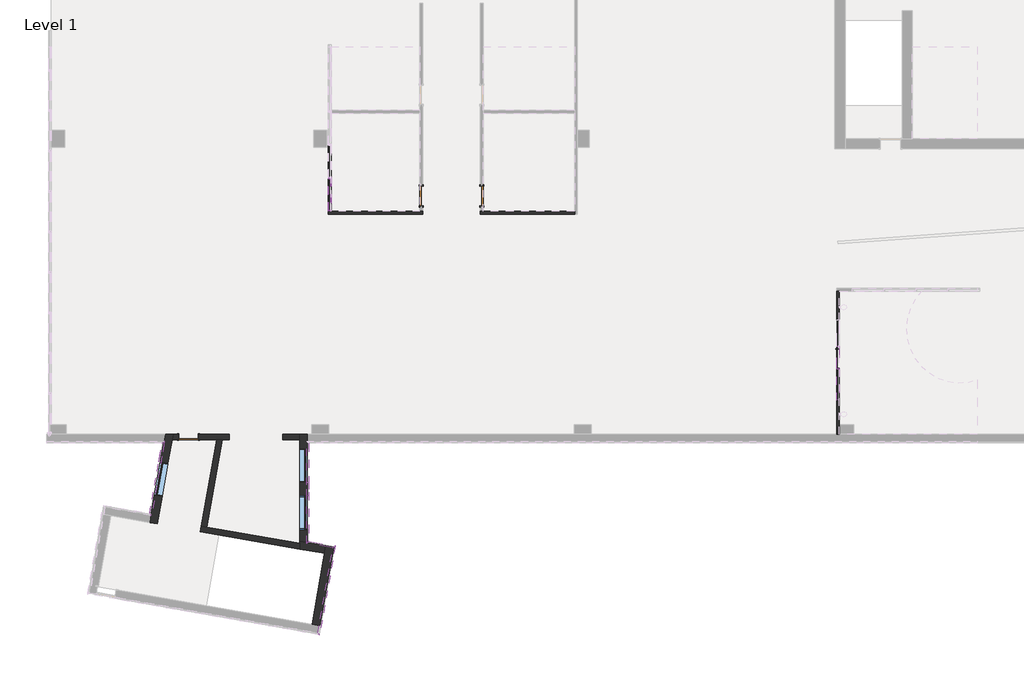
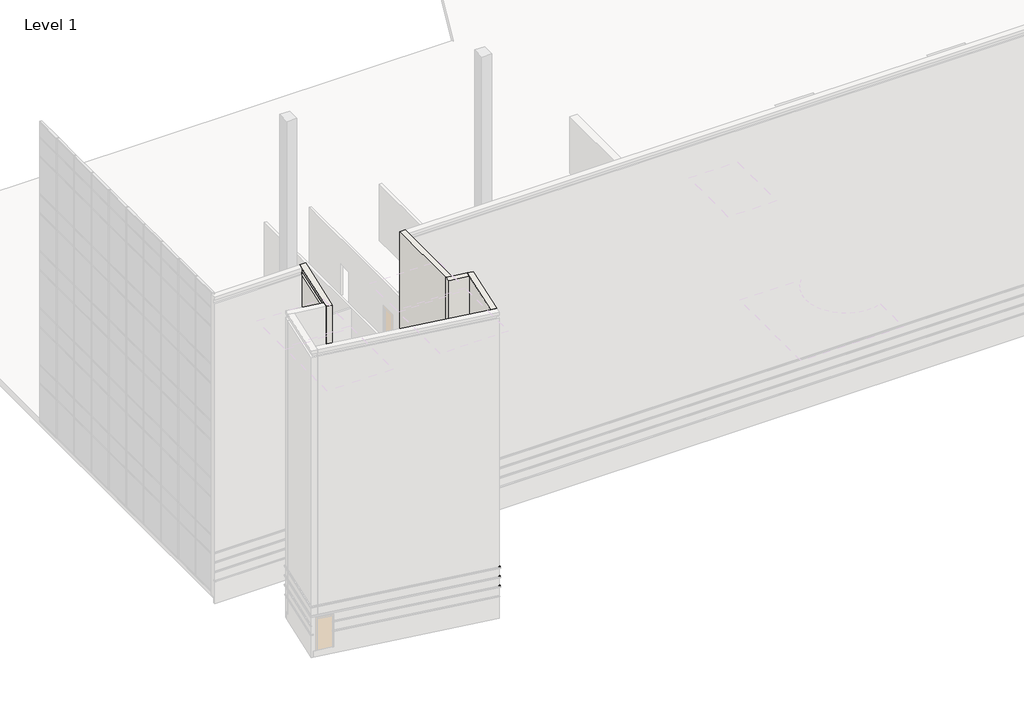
# One storey, part 5 of 23: 13 members, 12 proxies, 10 walls, 4 doors, 4 plates, 3 windows.
"""IFC4 building model written with IfcOpenShell, lengths in millimetres."""

from ifc_helpers import new_model, si_unit, frame, origin, origin_with_axes, place, context, project, spatial, polyline, outline, extrude, faceted_brep, transform, mapped, element, save
from components import curtain_wall_sgl_glass_curtain_wall_sgl_glass_ea362d66, door_ba235de4, door_82111de5, door_92889684, member_9597caa3, member_b2bde9e6, member_131a91bd, member_8e4b14e5, member_5adcf121, member_e7ed5742, member_194437a1, member_a139046c, member_8e09d03a, member_866a01fa, member_d7472725, system_panel_glazed_f771dc8d, system_panel_glazed_1974f2ce, system_panel_glazed_aacaee84, system_panel_solid_dc1d4dd7, window_7a027cf8

model = new_model("IFC4")

# Units and contexts
model_context = context("Model", 3, world=origin())
ifc_project = project(units=[si_unit("LENGTHUNIT", "METRE", prefix="MILLI")], contexts=[model_context])

# Site, building, storey
site = spatial("IfcSite", under=ifc_project)
building = spatial("IfcBuilding", under=site)
storey = spatial("IfcBuildingStorey", under=building, Name="Level 1", Elevation=0.0)

# Proxies
placement = place(None, origin())
element("IfcBuildingElementProxy", 1, Name="Reveals", at=placement, inside=storey, context=model_context, shape_type="SweptSolid", body=[
    extrude(outline(polyline([(-64063.4106191, -30479.1249304), (-63972.7344453, -30495.1135863), (-64135.1020032, -31415.9457657), (-64209.7895211, -31309.2809359), (-64063.4106191, -30479.1249304)])), frame((0.0, 0.0, 1625.6), z_axis=(0.0, 0.0, 1.0), x_axis=(1.0, 0.0, 0.0)), (0.0, 0.0, 1.0), 67.7333333),
    extrude(outline(polyline([(-63652.5265095, -28148.8853492), (-63542.7957974, -28056.8103492), (-63708.0946225, -28994.2665708), (-63798.7707964, -28978.2779148), (-63652.5265095, -28148.8853492)])), frame((0.0, 0.0, 1625.6), z_axis=(0.0, 0.0, 1.0), x_axis=(1.0, 0.0, 0.0)), (0.0, 0.0, 1.0), 67.7333333),
])
element("IfcBuildingElementProxy", 2, Name="Reveals", at=placement, inside=storey, context=model_context, shape_type="SweptSolid", body=[
    extrude(outline(polyline([(-64063.4106191, -30479.1249304), (-63972.7344453, -30495.1135863), (-64135.1020032, -31415.9457657), (-64209.7895211, -31309.2809359), (-64063.4106191, -30479.1249304)])), frame((0.0, 0.0, 2235.2), z_axis=(0.0, 0.0, 1.0), x_axis=(1.0, 0.0, 0.0)), (0.0, 0.0, 1.0), 67.7333333),
    extrude(outline(polyline([(-63652.5265095, -28148.8853492), (-63542.7957974, -28056.8103492), (-63708.0946225, -28994.2665708), (-63798.7707964, -28978.2779148), (-63652.5265095, -28148.8853492)])), frame((0.0, 0.0, 2235.2), z_axis=(0.0, 0.0, 1.0), x_axis=(1.0, 0.0, 0.0)), (0.0, 0.0, 1.0), 67.7333333),
])
element("IfcBuildingElementProxy", 3, Name="Reveals", at=placement, inside=storey, context=model_context, shape_type="SweptSolid", body=[
    extrude(outline(polyline([(-63652.5265095, -28148.8853492), (-63542.7957974, -28056.8103492), (-64135.1020032, -31415.9457657), (-64209.7895211, -31309.2809359), (-63652.5265095, -28148.8853492)])), frame((0.0, 0.0, 2844.8), z_axis=(0.0, 0.0, 1.0), x_axis=(1.0, 0.0, 0.0)), (0.0, 0.0, 1.0), 67.7333333),
])
element("IfcBuildingElementProxy", 4, Name="Reveals", at=placement, inside=storey, context=model_context, shape_type="SweptSolid", body=[
    extrude(outline(polyline([(-56525.6460513, -36823.1362989), (-56600.3335692, -36716.4714691), (-55921.0913575, -32864.2974624), (-55814.4265276, -32789.6099445), (-56525.6460513, -36823.1362989)])), frame((0.0, 0.0, 1625.6), z_axis=(0.0, 0.0, 1.0), x_axis=(1.0, 0.0, 0.0)), (0.0, 0.0, 1.0), 67.7333333),
])
element("IfcBuildingElementProxy", 5, Name="Reveals", at=placement, inside=storey, context=model_context, shape_type="SweptSolid", body=[
    extrude(outline(polyline([(-56525.6460513, -36823.1362989), (-56600.3335692, -36716.4714691), (-55921.0913575, -32864.2974624), (-55814.4265276, -32789.6099445), (-56525.6460513, -36823.1362989)])), frame((0.0, 0.0, 2235.2), z_axis=(0.0, 0.0, 1.0), x_axis=(1.0, 0.0, 0.0)), (0.0, 0.0, 1.0), 67.7333333),
])
element("IfcBuildingElementProxy", 6, Name="Reveals", at=placement, inside=storey, context=model_context, shape_type="SweptSolid", body=[
    extrude(outline(polyline([(-56525.6460513, -36823.1362989), (-56600.3335692, -36716.4714691), (-55921.0913575, -32864.2974624), (-55814.4265276, -32789.6099445), (-56525.6460513, -36823.1362989)])), frame((0.0, 0.0, 2844.8), z_axis=(0.0, 0.0, 1.0), x_axis=(1.0, 0.0, 0.0)), (0.0, 0.0, 1.0), 67.7333333),
])
element("IfcBuildingElementProxy", 7, Name="Reveals", at=placement, inside=storey, context=model_context, shape_type="SweptSolid", body=[
    extrude(outline(polyline([(-55814.4265276, -32789.6099445), (-55921.0913575, -32864.2974624), (-57101.4875003, -32656.1617745), (-57009.4125003, -32578.9016759), (-55814.4265276, -32789.6099445)])), frame((0.0, 0.0, 1625.6), z_axis=(0.0, 0.0, 1.0), x_axis=(1.0, 0.0, 0.0)), (0.0, 0.0, 1.0), 67.7333333),
])
element("IfcBuildingElementProxy", 8, Name="Reveals", at=placement, inside=storey, context=model_context, shape_type="SweptSolid", body=[
    extrude(outline(polyline([(-55814.4265276, -32789.6099445), (-55921.0913575, -32864.2974624), (-57101.4875003, -32656.1617745), (-57009.4125003, -32578.9016759), (-55814.4265276, -32789.6099445)])), frame((0.0, 0.0, 2235.2), z_axis=(0.0, 0.0, 1.0), x_axis=(1.0, 0.0, 0.0)), (0.0, 0.0, 1.0), 67.7333333),
])
element("IfcBuildingElementProxy", 9, Name="Reveals", at=placement, inside=storey, context=model_context, shape_type="SweptSolid", body=[
    extrude(outline(polyline([(-55814.4265276, -32789.6099445), (-55921.0913575, -32864.2974624), (-57101.4875003, -32656.1617745), (-57009.4125003, -32578.9016759), (-55814.4265276, -32789.6099445)])), frame((0.0, 0.0, 2844.8), z_axis=(0.0, 0.0, 1.0), x_axis=(1.0, 0.0, 0.0)), (0.0, 0.0, 1.0), 67.7333333),
])
element("IfcBuildingElementProxy", 10, Name="Reveals", at=placement, inside=storey, context=model_context, shape_type="SweptSolid", body=[
    extrude(outline(polyline([(-57009.4125003, -28391.7728492), (-57101.4875003, -28391.7728492), (-57101.4875003, -28056.8103492), (-57009.4125003, -28148.8853492), (-57009.4125003, -28391.7728492)])), frame((0.0, 0.0, 1625.6), z_axis=(0.0, 0.0, 1.0), x_axis=(1.0, 0.0, 0.0)), (0.0, 0.0, 1.0), 67.7333333),
    extrude(outline(polyline([(-57009.4125003, -30525.3728492), (-57101.4875003, -30525.3728492), (-57101.4875003, -29915.7728492), (-57009.4125003, -29915.7728492), (-57009.4125003, -30525.3728492)])), frame((0.0, 0.0, 1625.6), z_axis=(0.0, 0.0, 1.0), x_axis=(1.0, 0.0, 0.0)), (0.0, 0.0, 1.0), 67.7333333),
    extrude(outline(polyline([(-57009.4125003, -32578.9016759), (-57101.4875003, -32656.1617745), (-57101.4875003, -32049.3728492), (-57009.4125003, -32049.3728492), (-57009.4125003, -32578.9016759)])), frame((0.0, 0.0, 1625.6), z_axis=(0.0, 0.0, 1.0), x_axis=(1.0, 0.0, 0.0)), (0.0, 0.0, 1.0), 67.7333333),
])
element("IfcBuildingElementProxy", 11, Name="Reveals", at=placement, inside=storey, context=model_context, shape_type="SweptSolid", body=[
    extrude(outline(polyline([(-57009.4125003, -28391.7728492), (-57101.4875003, -28391.7728492), (-57101.4875003, -28056.8103492), (-57009.4125003, -28148.8853492), (-57009.4125003, -28391.7728492)])), frame((0.0, 0.0, 2235.2), z_axis=(0.0, 0.0, 1.0), x_axis=(1.0, 0.0, 0.0)), (0.0, 0.0, 1.0), 67.7333333),
    extrude(outline(polyline([(-57009.4125003, -30525.3728492), (-57101.4875003, -30525.3728492), (-57101.4875003, -29915.7728492), (-57009.4125003, -29915.7728492), (-57009.4125003, -30525.3728492)])), frame((0.0, 0.0, 2235.2), z_axis=(0.0, 0.0, 1.0), x_axis=(1.0, 0.0, 0.0)), (0.0, 0.0, 1.0), 67.7333333),
    extrude(outline(polyline([(-57009.4125003, -32578.9016759), (-57101.4875003, -32656.1617745), (-57101.4875003, -32049.3728492), (-57009.4125003, -32049.3728492), (-57009.4125003, -32578.9016759)])), frame((0.0, 0.0, 2235.2), z_axis=(0.0, 0.0, 1.0), x_axis=(1.0, 0.0, 0.0)), (0.0, 0.0, 1.0), 67.7333333),
])
element("IfcBuildingElementProxy", 12, Name="Reveals", at=placement, inside=storey, context=model_context, shape_type="SweptSolid", body=[
    extrude(outline(polyline([(-57009.4125003, -32578.9016759), (-57101.4875003, -32656.1617745), (-57101.4875003, -28056.8103492), (-57009.4125003, -28148.8853492), (-57009.4125003, -32578.9016759)])), frame((0.0, 0.0, 2844.8), z_axis=(0.0, 0.0, 1.0), x_axis=(1.0, 0.0, 0.0)), (0.0, 0.0, 1.0), 67.7333333),
])

# Doors
curtain_wall_sgl_glass_curtain_wall_sgl_glass_shape = curtain_wall_sgl_glass_curtain_wall_sgl_glass_ea362d66(model_context)
element("IfcDoor", 13, ObjectType="Curtain Wall Sgl Glass : Curtain Wall Sgl Glass", at=placement, inside=storey, context=model_context, shape_type="MappedRepresentation", body=[
    mapped(curtain_wall_sgl_glass_curtain_wall_sgl_glass_shape, transform((-33067.7142212, -24273.7978492, -25.4), x_axis=(0.0, -1.0, 0.0), y_axis=(1.0, 0.0, 0.0), z_axis=(0.0, 0.0, 1.0))),
])
door_shape = door_ba235de4(model_context)
element("IfcDoor", 14, ObjectType="Single-Flush : 34\" x 80\"", at=placement, inside=storey, context=model_context, shape_type="MappedRepresentation", body=[
    mapped(door_shape, transform((-62457.7125003, -27856.7853492, 0.0), x_axis=(-1.0, 0.0, 0.0), y_axis=(0.0, -1.0, 0.0), z_axis=(0.0, 0.0, 1.0))),
])
door_2_shape = door_82111de5(model_context)
element("IfcDoor", 15, ObjectType="Single-Flush : 34\" x 80\"", at=placement, inside=storey, context=model_context, shape_type="MappedRepresentation", body=[
    mapped(door_2_shape, transform((-51923.5856498, -16957.0103492, 0.0), x_axis=(0.0, -1.0, 0.0), y_axis=(1.0, 0.0, 0.0), z_axis=(0.0, 0.0, 1.0))),
])
door_3_shape = door_92889684(model_context)
element("IfcDoor", 16, ObjectType="Single-Flush : 34\" x 80\"", at=placement, inside=storey, context=model_context, shape_type="MappedRepresentation", body=[
    mapped(door_3_shape, transform((-49194.8999355, -16957.0103492, 0.0), x_axis=(0.0, -1.0, 0.0), y_axis=(1.0, 0.0, 0.0), z_axis=(0.0, 0.0, 1.0))),
])

# Members
member_shape = member_9597caa3(model_context)
element("IfcMember", 17, ObjectType="Rectangular Mullion : 2.5\" x 5\" rectangular", at=placement, inside=storey, context=model_context, shape_type="MappedRepresentation", body=[
    mapped(member_shape, transform((-56063.7856498, -16145.6214603, 63.5), x_axis=(0.0, 1.0, 0.0), y_axis=(1.0, 0.0, 0.0), z_axis=(0.0, 0.0, -1.0))),
])
member_2_shape = member_b2bde9e6(model_context)
element("IfcMember", 18, ObjectType="Rectangular Mullion : 2.5\" x 5\" rectangular", at=placement, inside=storey, context=model_context, shape_type="MappedRepresentation", body=[
    mapped(member_2_shape, transform((-56063.7856498, -17655.5103492, 2438.4), x_axis=(0.0, -1.0, 0.0), y_axis=(1.0, 0.0, 0.0), z_axis=(0.0, 0.0, 1.0))),
])
member_3_shape = member_131a91bd(model_context)
element("IfcMember", 19, ObjectType="Rectangular Mullion : 2.5\" x 5\" rectangular", at=placement, inside=storey, context=model_context, shape_type="MappedRepresentation", body=[
    mapped(member_3_shape, transform((-56063.7856498, -16145.6214603, 3657.6), x_axis=(0.0, 0.0, 1.0), y_axis=(1.0, 0.0, 0.0), z_axis=(0.0, 1.0, 0.0))),
])
element("IfcMember", 20, ObjectType="Rectangular Mullion : 2.5\" x 5\" rectangular", at=placement, inside=storey, context=model_context, shape_type="MappedRepresentation", body=[
    mapped(member_3_shape, transform((-56063.7856498, -17655.5103492, 0.0), x_axis=(0.0, 0.0, -1.0), y_axis=(1.0, 0.0, 0.0), z_axis=(0.0, -1.0, 0.0))),
])
element("IfcMember", 21, ObjectType="Rectangular Mullion : 2.5\" x 5\" rectangular", at=placement, inside=storey, context=model_context, shape_type="MappedRepresentation", body=[
    mapped(member_3_shape, transform((-56063.7856498, -16145.6214603, 0.0), x_axis=(0.0, 0.0, -1.0), y_axis=(1.0, 0.0, 0.0), z_axis=(0.0, -1.0, 0.0))),
])
member_4_shape = member_8e4b14e5(model_context)
element("IfcMember", 22, ObjectType="Rectangular Mullion : 2.5\" x 5\" rectangular", at=placement, inside=storey, context=model_context, shape_type="MappedRepresentation", body=[
    mapped(member_4_shape, transform((-56063.7856498, -16145.6214603, 2438.4), x_axis=(0.0, 0.0, 1.0), y_axis=(1.0, 0.0, 0.0), z_axis=(0.0, 1.0, 0.0))),
])
member_5_shape = member_5adcf121(model_context)
element("IfcMember", 23, ObjectType="Rectangular Mullion : 2.5\" x 5\" rectangular", at=placement, inside=storey, context=model_context, shape_type="MappedRepresentation", body=[
    mapped(member_5_shape, transform((-33067.7142212, -24781.7978492, 38.1), x_axis=(0.0, 1.0, 0.0), y_axis=(1.0, 0.0, 0.0), z_axis=(0.0, 0.0, -1.0))),
])
member_6_shape = member_e7ed5742(model_context)
element("IfcMember", 24, ObjectType="Rectangular Mullion : 2.5\" x 5\" rectangular", at=placement, inside=storey, context=model_context, shape_type="MappedRepresentation", body=[
    mapped(member_6_shape, transform((-33067.7142212, -26204.1978492, 2349.5), x_axis=(0.0, -1.0, 0.0), y_axis=(1.0, 0.0, 0.0), z_axis=(0.0, 0.0, 1.0))),
])
member_7_shape = member_194437a1(model_context)
element("IfcMember", 25, ObjectType="Rectangular Mullion : 2.5\" x 5\" rectangular", at=placement, inside=storey, context=model_context, shape_type="MappedRepresentation", body=[
    mapped(member_7_shape, transform((-33067.7142212, -24781.7978492, 2413.0), x_axis=(0.0, 0.0, 1.0), y_axis=(1.0, 0.0, 0.0), z_axis=(0.0, 1.0, 0.0))),
])
member_8_shape = member_a139046c(model_context)
element("IfcMember", 26, ObjectType="Rectangular Mullion : 2.5\" x 5\" rectangular", at=placement, inside=storey, context=model_context, shape_type="MappedRepresentation", body=[
    mapped(member_8_shape, transform((-33067.7142212, -26204.1978492, -25.4), x_axis=(0.0, 0.0, -1.0), y_axis=(1.0, 0.0, 0.0), z_axis=(0.0, -1.0, 0.0))),
])
member_9_shape = member_8e09d03a(model_context)
element("IfcMember", 27, ObjectType="Rectangular Mullion : 2.5\" x 5\" rectangular", at=placement, inside=storey, context=model_context, shape_type="MappedRepresentation", body=[
    mapped(member_9_shape, transform((-33067.7142212, -23765.7978492, 2413.0), x_axis=(0.0, 0.0, 1.0), y_axis=(1.0, 0.0, 0.0), z_axis=(0.0, 1.0, 0.0))),
])
member_10_shape = member_866a01fa(model_context)
element("IfcMember", 28, ObjectType="Rectangular Mullion : 2.5\" x 5\" rectangular", at=placement, inside=storey, context=model_context, shape_type="MappedRepresentation", body=[
    mapped(member_10_shape, transform((-56063.7856498, -16145.6214603, 2470.15), x_axis=(0.0, 1.0, 0.0), y_axis=(1.0, 0.0, 0.0), z_axis=(0.0, 0.0, -1.0))),
])
member_11_shape = member_d7472725(model_context)
element("IfcMember", 29, ObjectType="Rectangular Mullion : 2.5\" x 5\" rectangular", at=placement, inside=storey, context=model_context, shape_type="MappedRepresentation", body=[
    mapped(member_11_shape, transform((-56063.7856498, -17655.5103492, 3594.1), x_axis=(0.0, -1.0, 0.0), y_axis=(1.0, 0.0, 0.0), z_axis=(0.0, 0.0, 1.0))),
])

# Plates
system_panel_glazed_shape = system_panel_glazed_f771dc8d(model_context)
element("IfcPlate", 30, ObjectType="System Panel : Glazed", at=placement, inside=storey, context=model_context, shape_type="MappedRepresentation", body=[
    mapped(system_panel_glazed_shape, transform((-56063.7856498, -16884.6909048, 63.5), x_axis=(0.0, 1.0, 0.0), y_axis=(-1.0, 0.0, 0.0), z_axis=(0.0, 0.0, 1.0))),
])
system_panel_glazed_2_shape = system_panel_glazed_1974f2ce(model_context)
element("IfcPlate", 31, ObjectType="System Panel : Glazed", at=placement, inside=storey, context=model_context, shape_type="MappedRepresentation", body=[
    mapped(system_panel_glazed_2_shape, transform((-33067.7142212, -23172.0728492, 38.1), x_axis=(0.0, 1.0, 0.0), y_axis=(-1.0, 0.0, 0.0), z_axis=(0.0, 0.0, 1.0))),
])
system_panel_glazed_3_shape = system_panel_glazed_aacaee84(model_context)
element("IfcPlate", 32, ObjectType="System Panel : Glazed", at=placement, inside=storey, context=model_context, shape_type="MappedRepresentation", body=[
    mapped(system_panel_glazed_3_shape, transform((-33067.7142212, -25477.1228492, 38.1), x_axis=(0.0, 1.0, 0.0), y_axis=(-1.0, 0.0, 0.0), z_axis=(0.0, 0.0, 1.0))),
])
system_panel_solid_shape = system_panel_solid_dc1d4dd7(model_context)
element("IfcPlate", 33, ObjectType="System Panel : Solid", at=placement, inside=storey, context=model_context, shape_type="MappedRepresentation", body=[
    mapped(system_panel_solid_shape, transform((-56063.7856498, -16884.6909048, 2470.15), x_axis=(0.0, 1.0, 0.0), y_axis=(-1.0, 0.0, 0.0), z_axis=(0.0, 0.0, 1.0))),
])

# Walls
element("IfcWall", 34, ObjectType="Core-shaft 10\" Concrete", at=placement, inside=storey, context=model_context, shape_type="Brep", body=[
    faceted_brep([(-62889.5125003, -27729.7853492, 2032.0), (-62889.5125003, -27729.7853492, 0.0), (-63153.0625788, -27729.7853492, 0.0), (-63153.0625788, -27729.7853492, 3657.6), (-57428.5125003, -27729.7853492, 3657.6), (-57428.5125003, -27729.7853492, 0.0), (-58182.8685961, -27729.7853492, 0.0), (-58182.8685961, -27729.7853492, 2438.4), (-60621.2685961, -27729.7853492, 2438.4), (-60621.2685961, -27729.7853492, 0.0), (-62025.9125003, -27729.7853492, 0.0), (-62025.9125003, -27729.7853492, 2032.0), (-63197.8496319, -27983.7853492, 0.0), (-62889.5125003, -27983.7853492, 0.0), (-62889.5125003, -27983.7853492, 2032.0), (-62025.9125003, -27983.7853492, 2032.0), (-62025.9125003, -27983.7853492, 0.0), (-61184.4744387, -27983.7853492, 0.0), (-60926.5560793, -27983.7853492, 0.0), (-60621.2685961, -27983.7853492, 0.0), (-60621.2685961, -27983.7853492, 2438.4), (-58182.8685961, -27983.7853492, 2438.4), (-58182.8685961, -27983.7853492, 0.0), (-57428.5125003, -27983.7853492, 0.0), (-57428.5125003, -27983.7853492, 3657.6), (-60926.5560793, -27983.7853492, 3657.6), (-61184.4744387, -27983.7853492, 3657.6), (-63197.8496319, -27983.7853492, 3657.6)], [[[0, 1, 2, 3, 4, 5, 6, 7, 8, 9, 10, 11]], [[12, 13, 14, 15, 16, 17, 18, 19, 20, 21, 22, 23, 24, 25, 26, 27]], [[5, 23, 22, 6]], [[10, 9, 19, 18, 17, 16]], [[2, 1, 13, 12]], [[4, 3, 27, 26, 25, 24]], [[3, 2, 12, 27]], [[5, 4, 24, 23]], [[14, 13, 1, 0]], [[15, 14, 0, 11]], [[16, 15, 11, 10]], [[7, 21, 20, 8]], [[21, 7, 6, 22]], [[8, 20, 19, 9]]]),
])
element("IfcWall", 35, ObjectType="Core-shaft 10\" Concrete", at=placement, inside=storey, context=model_context, shape_type="Brep", body=[
    faceted_brep([(-61917.1680405, -32139.0972525, 0.0), (-57428.5125003, -32930.5683313, 0.0), (-57428.5125003, -32930.5683313, 3657.6), (-61917.1680405, -32139.0972525, 3657.6), (-61873.0614034, -31888.9560832, 0.0), (-61873.0614034, -31888.9560832, 3657.6), (-61622.9202341, -31933.0627204, 3657.6), (-57428.5125003, -32672.6499719, 3657.6), (-57428.5125003, -32672.6499719, 0.0), (-61622.9202341, -31933.0627204, 0.0)], [[[0, 1, 2, 3]], [[4, 5, 6, 7, 8, 9]], [[1, 0, 4, 9, 8]], [[3, 2, 7, 6, 5]], [[0, 3, 5, 4]], [[2, 1, 8, 7]]]),
])
element("IfcWall", 36, ObjectType="Core-shaft 10\" Concrete", at=placement, inside=storey, context=model_context, shape_type="SweptSolid", body=[
    extrude(outline(polyline([(-60926.5560793, -27983.7853492), (-61622.9202341, -31933.0627204), (-61873.0614034, -31888.9560832), (-61184.4744387, -27983.7853492), (-60926.5560793, -27983.7853492)])), origin_with_axes(), (0.0, 0.0, 1.0), 3657.6),
])
element("IfcWall", 37, ObjectType="Exterior - Brick and CMU on MTL. Stud", at=placement, inside=storey, context=model_context, shape_type="Brep", body=[
    faceted_brep([(-64216.9034154, -31733.5918574, 19304.0), (-64155.7054564, -31386.5209851, 19304.0), (-63573.0663387, -28082.2103492, 19304.0), (-63510.9243025, -27729.7853492, 19304.0), (-63510.9243025, -27729.7853492, 0.0), (-63556.8310319, -27990.1353492, 0.0), (-63556.8310319, -27990.1353492, -406.4), (-63573.0663387, -28082.2103492, -406.4), (-64155.7054564, -31386.5209851, -406.4), (-64171.6941124, -31477.1971589, -406.4), (-64171.6941124, -31477.1971589, 0.0), (-64216.9034154, -31733.5918574, 0.0), (-63997.7485622, -30490.7029226, 914.4), (-63733.1087394, -28989.855907, 914.4), (-63733.1087394, -28989.855907, 1016.0), (-63573.0663387, -28082.2103492, 1016.0), (-63556.8310319, -27990.1353492, 1016.0), (-63556.8310319, -27990.1353492, 1085.85), (-63573.0663387, -28082.2103492, 1085.85), (-63733.1087394, -28989.855907, 1085.85), (-63733.1087394, -28989.855907, 1625.6), (-63573.0663387, -28082.2103492, 1625.6), (-63568.5876334, -28056.8103492, 1625.6), (-63568.5876334, -28056.8103492, 1693.3333333), (-63573.0663387, -28082.2103492, 1693.3333333), (-63733.1087394, -28989.855907, 1693.3333333), (-63733.1087394, -28989.855907, 2235.2), (-63573.0663387, -28082.2103492, 2235.2), (-63568.5876334, -28056.8103492, 2235.2), (-63568.5876334, -28056.8103492, 2302.9333333), (-63573.0663387, -28082.2103492, 2302.9333333), (-63733.1087394, -28989.855907, 2302.9333333), (-63733.1087394, -28989.855907, 2286.0), (-63997.7485622, -30490.7029226, 2286.0), (-63997.7485622, -30490.7029226, 2302.9333333), (-64155.7054564, -31386.5209851, 2302.9333333), (-64160.1161201, -31411.535102, 2302.9333333), (-64160.1161201, -31411.535102, 2235.2), (-64155.7054564, -31386.5209851, 2235.2), (-63997.7485622, -30490.7029226, 2235.2), (-63997.7485622, -30490.7029226, 1693.3333333), (-64155.7054564, -31386.5209851, 1693.3333333), (-64160.1161201, -31411.535102, 1693.3333333), (-64160.1161201, -31411.535102, 1625.6), (-64155.7054564, -31386.5209851, 1625.6), (-63997.7485622, -30490.7029226, 1625.6), (-63997.7485622, -30490.7029226, 1085.85), (-64155.7054564, -31386.5209851, 1085.85), (-64171.6941124, -31477.1971589, 1085.85), (-64171.6941124, -31477.1971589, 1016.0), (-64155.7054564, -31386.5209851, 1016.0), (-63997.7485622, -30490.7029226, 1016.0), (-64160.1161201, -31411.535102, 2912.5333333), (-64160.1161201, -31411.535102, 2844.8), (-64155.7054564, -31386.5209851, 2844.8), (-63573.0663387, -28082.2103492, 2844.8), (-63568.5876334, -28056.8103492, 2844.8), (-63568.5876334, -28056.8103492, 2912.5333333), (-63573.0663387, -28082.2103492, 2912.5333333), (-64155.7054564, -31386.5209851, 2912.5333333), (-64171.6941124, -31477.1971589, 19100.8), (-64171.6941124, -31477.1971589, 18897.6), (-64155.7054564, -31386.5209851, 18897.6), (-63573.0663387, -28082.2103492, 18897.6), (-63556.8310319, -27990.1353492, 18897.6), (-63556.8310319, -27990.1353492, 19100.8), (-63573.0663387, -28082.2103492, 19100.8), (-64155.7054564, -31386.5209851, 19100.8), (-63869.8325431, -31794.7898164, 0.0), (-63197.8496319, -27983.7853492, 0.0), (-63153.0625788, -27729.7853492, 0.0), (-63153.0625788, -27729.7853492, 3657.6), (-63153.0625788, -27729.7853492, 19304.0), (-63869.8325431, -31794.7898164, 19304.0), (-63386.0378671, -29051.0538661, 2286.0), (-63386.0378671, -29051.0538661, 914.4), (-63650.6776898, -30551.9008816, 914.4), (-63650.6776898, -30551.9008816, 2286.0), (-63708.0946225, -28994.2665708, 2286.0), (-63708.0946225, -28994.2665708, 2235.2), (-63708.0946225, -28994.2665708, 1693.3333333), (-63708.0946225, -28994.2665708, 1625.6), (-63642.4325656, -29005.844563, 1085.85), (-63642.4325656, -29005.844563, 1016.0), (-63907.0723883, -30506.6915786, 1016.0), (-63907.0723883, -30506.6915786, 1085.85), (-63972.7344453, -30495.1135863, 1625.6), (-63972.7344453, -30495.1135863, 1693.3333333), (-63972.7344453, -30495.1135863, 2235.2), (-63972.7344453, -30495.1135863, 2286.0), (-64081.0179385, -31493.1858149, 0.0), (-63463.3356266, -27990.1353492, 0.0), (-64135.1020032, -31415.9457657, 1693.3333333), (-64135.1020032, -31415.9457657, 1625.6), (-63542.7957974, -28056.8103492, 1693.3333333), (-63542.7957974, -28056.8103492, 1625.6), (-63972.7344453, -30495.1135863, 2302.9333333), (-64135.1020032, -31415.9457657, 2302.9333333), (-64135.1020032, -31415.9457657, 2235.2), (-63542.7957974, -28056.8103492, 2302.9333333), (-63542.7957974, -28056.8103492, 2235.2), (-63708.0946225, -28994.2665708, 2302.9333333), (-63542.7957974, -28056.8103492, 2912.5333333), (-63542.7957974, -28056.8103492, 2844.8), (-64135.1020032, -31415.9457657, 2844.8), (-64135.1020032, -31415.9457657, 2912.5333333), (-64081.0179385, -31493.1858149, 1085.85), (-64081.0179385, -31493.1858149, 1016.0), (-63463.3356266, -27990.1353492, 1085.85), (-63463.3356266, -27990.1353492, 1016.0), (-64081.0179385, -31493.1858149, 19100.8), (-63463.3356266, -27990.1353492, 19100.8), (-63463.3356266, -27990.1353492, 18897.6), (-64081.0179385, -31493.1858149, 18897.6), (-64081.0179385, -31493.1858149, -406.4), (-63463.3356266, -27990.1353492, -406.4)], [[[0, 1, 2, 3, 4, 5, 6, 7, 8, 9, 10, 11], [12, 13, 14, 15, 16, 17, 18, 19, 20, 21, 22, 23, 24, 25, 26, 27, 28, 29, 30, 31, 32, 33, 34, 35, 36, 37, 38, 39, 40, 41, 42, 43, 44, 45, 46, 47, 48, 49, 50, 51], [52, 53, 54, 55, 56, 57, 58, 59], [60, 61, 62, 63, 64, 65, 66, 67]], [[68, 69, 70, 71, 72, 73], [74, 75, 76, 77]], [[3, 2, 1, 0, 73, 72]], [[68, 73, 0, 11]], [[75, 74, 78, 79, 26, 25, 80, 81, 20, 19, 82, 83, 14, 13]], [[76, 75, 13, 12]], [[77, 76, 12, 51, 84, 85, 46, 45, 86, 87, 40, 39, 88, 89]], [[74, 77, 89, 33, 32, 78]], [[70, 69, 68, 11, 10, 90, 91, 5, 4]], [[87, 92, 42, 41, 40]], [[93, 86, 45, 44, 43]], [[92, 87, 86, 93]], [[94, 95, 81, 80]], [[96, 34, 33, 89]], [[34, 96, 97, 36, 35]], [[98, 88, 39, 38, 37]], [[97, 96, 89, 88, 98]], [[99, 100, 79, 78, 101]], [[102, 103, 104, 105]], [[105, 104, 53, 52]], [[85, 106, 48, 47, 46]], [[107, 84, 51, 50, 49]], [[106, 85, 84, 107]], [[108, 109, 83, 82]], [[110, 111, 112, 113]], [[110, 113, 61, 60]], [[31, 101, 78, 32]], [[90, 114, 115, 91]], [[114, 9, 8, 7, 6, 115]], [[92, 93, 43, 42]], [[95, 94, 23, 22]], [[81, 95, 22, 21, 20]], [[94, 80, 25, 24, 23]], [[97, 98, 37, 36]], [[100, 99, 29, 28]], [[79, 100, 28, 27, 26]], [[101, 31, 30, 29, 99]], [[103, 102, 57, 56]], [[104, 103, 56, 55, 54, 53]], [[102, 105, 52, 59, 58, 57]], [[106, 107, 49, 48]], [[109, 108, 17, 16]], [[83, 109, 16, 15, 14]], [[108, 82, 19, 18, 17]], [[111, 110, 60, 67, 66, 65]], [[112, 111, 65, 64]], [[113, 112, 64, 63, 62, 61]], [[3, 72, 71, 70, 4]], [[90, 10, 9, 114]], [[5, 91, 115, 6]]]),
])
element("IfcWall", 38, ObjectType="Exterior - Brick and CMU on MTL. Stud", at=placement, inside=storey, context=model_context, shape_type="Brep", body=[
    faceted_brep([(-55891.6665768, -32843.6940092, 19304.0), (-56518.532157, -36398.8253773, 19304.0), (-56518.532157, -36398.8253773, 19100.8), (-55891.6665768, -32843.6940092, 19100.8), (-56518.532157, -36398.8253773, 1693.3333333), (-55891.6665768, -32843.6940092, 1693.3333333), (-55891.6665768, -32843.6940092, 2235.2), (-56518.532157, -36398.8253773, 2235.2), (-55891.6665768, -32843.6940092, 1625.6), (-56518.532157, -36398.8253773, 1625.6), (-56518.532157, -36398.8253773, 1085.85), (-55891.6665768, -32843.6940092, 1085.85), (-56518.532157, -36398.8253773, 2302.9333333), (-55891.6665768, -32843.6940092, 2302.9333333), (-55891.6665768, -32843.6940092, 2844.8), (-56518.532157, -36398.8253773, 2844.8), (-56518.532157, -36398.8253773, 2912.5333333), (-55891.6665768, -32843.6940092, 2912.5333333), (-55891.6665768, -32843.6940092, 18897.6), (-56518.532157, -36398.8253773, 18897.6), (-55891.6665768, -32843.6940092, -406.4), (-55891.6665768, -32843.6940092, 1016.0), (-56518.532157, -36398.8253773, 1016.0), (-56518.532157, -36398.8253773, 0.0), (-56563.74146, -36655.2200758, 0.0), (-56563.74146, -36655.2200758, -406.4), (-56238.7374492, -32782.4960501, 0.0), (-56299.9354082, -33129.5669225, 0.0), (-56865.6030293, -36337.6274183, 0.0), (-56865.6030293, -36337.6274183, 19304.0), (-56299.9354082, -33129.5669225, 19304.0), (-56238.7374492, -32782.4960501, 19304.0), (-56238.7374492, -32782.4960501, 19100.8), (-56254.7261051, -32873.172224, 19100.8), (-56254.7261051, -32873.172224, 18897.6), (-56238.7374492, -32782.4960501, 18897.6), (-56238.7374492, -32782.4960501, 2912.5333333), (-56243.1481129, -32807.5101671, 2912.5333333), (-56243.1481129, -32807.5101671, 2844.8), (-56238.7374492, -32782.4960501, 2844.8), (-56238.7374492, -32782.4960501, 2302.9333333), (-56243.1481129, -32807.5101671, 2302.9333333), (-56243.1481129, -32807.5101671, 2235.2), (-56238.7374492, -32782.4960501, 2235.2), (-56238.7374492, -32782.4960501, 1693.3333333), (-56243.1481129, -32807.5101671, 1693.3333333), (-56243.1481129, -32807.5101671, 1625.6), (-56238.7374492, -32782.4960501, 1625.6), (-56238.7374492, -32782.4960501, 1085.85), (-56254.7261051, -32873.172224, 1085.85), (-56254.7261051, -32873.172224, 1016.0), (-56238.7374492, -32782.4960501, 1016.0), (-56609.2083309, -36382.8367214, 0.0), (-56609.2083309, -36382.8367214, 1016.0), (-56609.2083309, -36382.8367214, 1085.85), (-56543.5462739, -36394.4147136, 1625.6), (-56543.5462739, -36394.4147136, 1693.3333333), (-56543.5462739, -36394.4147136, 2235.2), (-56543.5462739, -36394.4147136, 2302.9333333), (-56543.5462739, -36394.4147136, 2844.8), (-56543.5462739, -36394.4147136, 2912.5333333), (-56609.2083309, -36382.8367214, 18897.6), (-56609.2083309, -36382.8367214, 19100.8), (-55982.3427507, -32827.7053532, 0.0), (-55982.3427507, -32827.7053532, -406.4), (-55998.3314066, -32918.3815271, 0.0), (-55921.0913575, -32864.2974624, 1693.3333333), (-55921.0913575, -32864.2974624, 1625.6), (-55921.0913575, -32864.2974624, 2302.9333333), (-55921.0913575, -32864.2974624, 2235.2), (-55921.0913575, -32864.2974624, 2912.5333333), (-55921.0913575, -32864.2974624, 2844.8), (-55998.3314066, -32918.3815271, 1085.85), (-55998.3314066, -32918.3815271, 1016.0), (-55998.3314066, -32918.3815271, 18897.6), (-55998.3314066, -32918.3815271, 19100.8), (-55998.3314066, -32918.3815271, -406.4), (-56654.4176339, -36639.2314199, -406.4), (-56654.4176339, -36639.2314199, 0.0)], [[[0, 1, 2, 3]], [[4, 5, 6, 7]], [[8, 9, 10, 11]], [[12, 13, 14, 15]], [[16, 17, 18, 19]], [[20, 21, 22, 23, 24, 25]], [[26, 27, 28, 29, 30, 31, 32, 33, 34, 35, 36, 37, 38, 39, 40, 41, 42, 43, 44, 45, 46, 47, 48, 49, 50, 51]], [[1, 0, 31, 30, 29]], [[1, 29, 28, 52, 23, 22, 53, 54, 10, 9, 55, 56, 4, 7, 57, 58, 12, 15, 59, 60, 16, 19, 61, 62, 2]], [[31, 0, 3, 32]], [[5, 44, 43, 6]], [[47, 8, 11, 48]], [[13, 40, 39, 14]], [[17, 36, 35, 18]], [[63, 26, 51, 21, 20, 64]], [[28, 27, 26, 63, 65, 52]], [[45, 44, 5, 4, 56, 66]], [[47, 46, 67, 55, 9, 8]], [[67, 66, 56, 55]], [[66, 67, 46, 45]], [[41, 40, 13, 12, 58, 68]], [[43, 42, 69, 57, 7, 6]], [[69, 68, 58, 57]], [[68, 69, 42, 41]], [[37, 36, 17, 16, 60, 70]], [[39, 38, 71, 59, 15, 14]], [[71, 70, 60, 59]], [[70, 71, 38, 37]], [[49, 48, 11, 10, 54, 72]], [[51, 50, 73, 53, 22, 21]], [[73, 72, 54, 53]], [[72, 73, 50, 49]], [[34, 74, 61, 19, 18, 35]], [[62, 75, 33, 32, 3, 2]], [[74, 75, 62, 61]], [[75, 74, 34, 33]], [[52, 65, 63, 64, 76, 77, 78]], [[64, 20, 25, 77, 76]], [[24, 23, 52, 78]], [[77, 25, 24, 78]]]),
])
element("IfcWall", 39, ObjectType="Exterior - Brick and CMU on MTL. Stud", at=placement, inside=storey, context=model_context, shape_type="Brep", body=[
    faceted_brep([(-57428.5125003, -32572.7066077, 19304.0), (-57076.0875003, -32634.8486438, 19304.0), (-56238.7374492, -32782.4960501, 19304.0), (-56238.7374492, -32782.4960501, 19100.8), (-57076.0875003, -32634.8486438, 19100.8), (-57168.1625003, -32618.6133371, 19100.8), (-57168.1625003, -32618.6133371, 18897.6), (-57076.0875003, -32634.8486438, 18897.6), (-56238.7374492, -32782.4960501, 18897.6), (-56238.7374492, -32782.4960501, 2912.5333333), (-57076.0875003, -32634.8486438, 2912.5333333), (-57101.4875003, -32630.3699385, 2912.5333333), (-57101.4875003, -32630.3699385, 2844.8), (-57076.0875003, -32634.8486438, 2844.8), (-56238.7374492, -32782.4960501, 2844.8), (-56238.7374492, -32782.4960501, 2302.9333333), (-57076.0875003, -32634.8486438, 2302.9333333), (-57101.4875003, -32630.3699385, 2302.9333333), (-57101.4875003, -32630.3699385, 2235.2), (-57076.0875003, -32634.8486438, 2235.2), (-56238.7374492, -32782.4960501, 2235.2), (-56238.7374492, -32782.4960501, 1693.3333333), (-57076.0875003, -32634.8486438, 1693.3333333), (-57101.4875003, -32630.3699385, 1693.3333333), (-57101.4875003, -32630.3699385, 1625.6), (-57076.0875003, -32634.8486438, 1625.6), (-56238.7374492, -32782.4960501, 1625.6), (-56238.7374492, -32782.4960501, 1085.85), (-57076.0875003, -32634.8486438, 1085.85), (-57168.1625003, -32618.6133371, 1085.85), (-57168.1625003, -32618.6133371, 1016.0), (-57076.0875003, -32634.8486438, 1016.0), (-56238.7374492, -32782.4960501, 1016.0), (-56238.7374492, -32782.4960501, 0.0), (-55982.3427507, -32827.7053532, 0.0), (-55982.3427507, -32827.7053532, -406.4), (-57076.0875003, -32634.8486438, -406.4), (-57168.1625003, -32618.6133371, -406.4), (-57168.1625003, -32618.6133371, 0.0), (-57428.5125003, -32572.7066077, 0.0), (-57428.5125003, -32930.5683313, 0.0), (-56299.9354082, -33129.5669225, 0.0), (-56299.9354082, -33129.5669225, 19304.0), (-57428.5125003, -32930.5683313, 19304.0), (-56254.7261051, -32873.172224, 0.0), (-56254.7261051, -32873.172224, 1016.0), (-56254.7261051, -32873.172224, 1085.85), (-56243.1481129, -32807.5101671, 1625.6), (-56243.1481129, -32807.5101671, 1693.3333333), (-56243.1481129, -32807.5101671, 2235.2), (-56243.1481129, -32807.5101671, 2302.9333333), (-56243.1481129, -32807.5101671, 2844.8), (-56243.1481129, -32807.5101671, 2912.5333333), (-56254.7261051, -32873.172224, 18897.6), (-56254.7261051, -32873.172224, 19100.8), (-57428.5125003, -32672.6499719, 0.0), (-57168.1625003, -32712.1087424, 0.0), (-57101.4875003, -32656.1617745, 1693.3333333), (-57101.4875003, -32656.1617745, 1625.6), (-57101.4875003, -32656.1617745, 2302.9333333), (-57101.4875003, -32656.1617745, 2235.2), (-57101.4875003, -32656.1617745, 2912.5333333), (-57101.4875003, -32656.1617745, 2844.8), (-57168.1625003, -32712.1087424, 1085.85), (-57168.1625003, -32712.1087424, 1016.0), (-57168.1625003, -32712.1087424, 18897.6), (-57168.1625003, -32712.1087424, 19100.8), (-57168.1625003, -32712.1087424, -406.4), (-55998.3314066, -32918.3815271, -406.4), (-55998.3314066, -32918.3815271, 0.0)], [[[0, 1, 2, 3, 4, 5, 6, 7, 8, 9, 10, 11, 12, 13, 14, 15, 16, 17, 18, 19, 20, 21, 22, 23, 24, 25, 26, 27, 28, 29, 30, 31, 32, 33, 34, 35, 36, 37, 38, 39]], [[40, 41, 42, 43]], [[2, 1, 0, 43, 42]], [[2, 42, 41, 44, 33, 32, 45, 46, 27, 26, 47, 48, 21, 20, 49, 50, 15, 14, 51, 52, 9, 8, 53, 54, 3]], [[41, 40, 55, 39, 38, 56, 44]], [[21, 48, 57, 23, 22]], [[47, 26, 25, 24, 58]], [[58, 57, 48, 47]], [[15, 50, 59, 17, 16]], [[49, 20, 19, 18, 60]], [[60, 59, 50, 49]], [[11, 10, 9, 52, 61]], [[14, 13, 12, 62, 51]], [[62, 61, 52, 51]], [[61, 62, 12, 11]], [[27, 46, 63, 29, 28]], [[45, 32, 31, 30, 64]], [[64, 63, 46, 45]], [[6, 65, 53, 8, 7]], [[54, 66, 5, 4, 3]], [[65, 66, 54, 53]], [[66, 65, 6, 5]], [[44, 56, 67, 68, 69]], [[67, 37, 36, 35, 68]], [[57, 58, 24, 23]], [[59, 60, 18, 17]], [[63, 64, 30, 29]], [[43, 0, 39, 55, 40]], [[56, 38, 37, 67]], [[34, 33, 44, 69]], [[68, 35, 34, 69]]]),
])
element("IfcWall", 40, ObjectType="Exterior - Brick and CMU on MTL. Stud", at=placement, inside=storey, context=model_context, shape_type="Brep", body=[
    faceted_brep([(-57076.0875003, -27729.7853492, 19304.0), (-57076.0875003, -28082.2103492, 19304.0), (-57076.0875003, -32634.8486438, 19304.0), (-57076.0875003, -32634.8486438, 19100.8), (-57076.0875003, -28082.2103492, 19100.8), (-57076.0875003, -27990.1353492, 19100.8), (-57076.0875003, -27990.1353492, 18897.6), (-57076.0875003, -28082.2103492, 18897.6), (-57076.0875003, -32634.8486438, 18897.6), (-57076.0875003, -32634.8486438, 2912.5333333), (-57076.0875003, -28082.2103492, 2912.5333333), (-57076.0875003, -28056.8103492, 2912.5333333), (-57076.0875003, -28056.8103492, 2844.8), (-57076.0875003, -28082.2103492, 2844.8), (-57076.0875003, -32634.8486438, 2844.8), (-57076.0875003, -32634.8486438, 2302.9333333), (-57076.0875003, -32049.3728492, 2302.9333333), (-57076.0875003, -32049.3728492, 2286.0), (-57076.0875003, -30525.3728492, 2286.0), (-57076.0875003, -30525.3728492, 2302.9333333), (-57076.0875003, -29915.7728492, 2302.9333333), (-57076.0875003, -29915.7728492, 2286.0), (-57076.0875003, -28391.7728492, 2286.0), (-57076.0875003, -28391.7728492, 2302.9333333), (-57076.0875003, -28082.2103492, 2302.9333333), (-57076.0875003, -28056.8103492, 2302.9333333), (-57076.0875003, -28056.8103492, 2235.2), (-57076.0875003, -28082.2103492, 2235.2), (-57076.0875003, -28391.7728492, 2235.2), (-57076.0875003, -28391.7728492, 1693.3333333), (-57076.0875003, -28082.2103492, 1693.3333333), (-57076.0875003, -28056.8103492, 1693.3333333), (-57076.0875003, -28056.8103492, 1625.6), (-57076.0875003, -28082.2103492, 1625.6), (-57076.0875003, -28391.7728492, 1625.6), (-57076.0875003, -28391.7728492, 1085.85), (-57076.0875003, -28082.2103492, 1085.85), (-57076.0875003, -27990.1353492, 1085.85), (-57076.0875003, -27990.1353492, 1016.0), (-57076.0875003, -28082.2103492, 1016.0), (-57076.0875003, -28391.7728492, 1016.0), (-57076.0875003, -28391.7728492, 914.4), (-57076.0875003, -29915.7728492, 914.4), (-57076.0875003, -29915.7728492, 1016.0), (-57076.0875003, -30525.3728492, 1016.0), (-57076.0875003, -30525.3728492, 914.4), (-57076.0875003, -32049.3728492, 914.4), (-57076.0875003, -32049.3728492, 1016.0), (-57076.0875003, -32634.8486438, 1016.0), (-57076.0875003, -32634.8486438, -406.4), (-57076.0875003, -28082.2103492, -406.4), (-57076.0875003, -27990.1353492, -406.4), (-57076.0875003, -27990.1353492, 0.0), (-57076.0875003, -27729.7853492, 0.0), (-57076.0875003, -30525.3728492, 1693.3333333), (-57076.0875003, -29915.7728492, 1693.3333333), (-57076.0875003, -29915.7728492, 2235.2), (-57076.0875003, -30525.3728492, 2235.2), (-57076.0875003, -29915.7728492, 1625.6), (-57076.0875003, -30525.3728492, 1625.6), (-57076.0875003, -30525.3728492, 1085.85), (-57076.0875003, -29915.7728492, 1085.85), (-57076.0875003, -32049.3728492, 1625.6), (-57076.0875003, -32634.8486438, 1625.6), (-57076.0875003, -32634.8486438, 1085.85), (-57076.0875003, -32049.3728492, 1085.85), (-57076.0875003, -32634.8486438, 1693.3333333), (-57076.0875003, -32049.3728492, 1693.3333333), (-57076.0875003, -32049.3728492, 2235.2), (-57076.0875003, -32634.8486438, 2235.2), (-57428.5125003, -27729.7853492, 0.0), (-57428.5125003, -27983.7853492, 0.0), (-57428.5125003, -32572.7066077, 0.0), (-57428.5125003, -32572.7066077, 19304.0), (-57428.5125003, -27729.7853492, 19304.0), (-57428.5125003, -27729.7853492, 3657.6), (-57428.5125003, -32049.3728492, 2286.0), (-57428.5125003, -32049.3728492, 914.4), (-57428.5125003, -30525.3728492, 914.4), (-57428.5125003, -30525.3728492, 2286.0), (-57428.5125003, -29915.7728492, 2286.0), (-57428.5125003, -29915.7728492, 914.4), (-57428.5125003, -28391.7728492, 914.4), (-57428.5125003, -28391.7728492, 2286.0), (-57101.4875003, -32049.3728492, 2286.0), (-57101.4875003, -32049.3728492, 2235.2), (-57101.4875003, -32049.3728492, 1693.3333333), (-57101.4875003, -32049.3728492, 1625.6), (-57168.1625003, -32049.3728492, 1085.85), (-57168.1625003, -32049.3728492, 1016.0), (-57168.1625003, -30525.3728492, 1016.0), (-57168.1625003, -30525.3728492, 1085.85), (-57101.4875003, -30525.3728492, 1625.6), (-57101.4875003, -30525.3728492, 1693.3333333), (-57101.4875003, -30525.3728492, 2235.2), (-57101.4875003, -30525.3728492, 2286.0), (-57101.4875003, -29915.7728492, 2286.0), (-57101.4875003, -29915.7728492, 2235.2), (-57101.4875003, -29915.7728492, 1693.3333333), (-57101.4875003, -29915.7728492, 1625.6), (-57168.1625003, -29915.7728492, 1085.85), (-57168.1625003, -29915.7728492, 1016.0), (-57168.1625003, -28391.7728492, 1016.0), (-57168.1625003, -28391.7728492, 1085.85), (-57101.4875003, -28391.7728492, 1625.6), (-57101.4875003, -28391.7728492, 1693.3333333), (-57101.4875003, -28391.7728492, 2235.2), (-57101.4875003, -28391.7728492, 2286.0), (-57168.1625003, -27990.1353492, 0.0), (-57168.1625003, -32618.6133371, 0.0), (-57101.4875003, -28056.8103492, 1693.3333333), (-57101.4875003, -28056.8103492, 1625.6), (-57101.4875003, -32630.3699385, 1693.3333333), (-57101.4875003, -32630.3699385, 1625.6), (-57101.4875003, -28056.8103492, 2302.9333333), (-57101.4875003, -28391.7728492, 2302.9333333), (-57101.4875003, -28056.8103492, 2235.2), (-57101.4875003, -30525.3728492, 2302.9333333), (-57101.4875003, -29915.7728492, 2302.9333333), (-57101.4875003, -32049.3728492, 2302.9333333), (-57101.4875003, -32630.3699385, 2302.9333333), (-57101.4875003, -32630.3699385, 2235.2), (-57101.4875003, -28056.8103492, 2912.5333333), (-57101.4875003, -32630.3699385, 2912.5333333), (-57101.4875003, -28056.8103492, 2844.8), (-57101.4875003, -32630.3699385, 2844.8), (-57168.1625003, -27990.1353492, 1085.85), (-57168.1625003, -27990.1353492, 1016.0), (-57168.1625003, -32618.6133371, 1016.0), (-57168.1625003, -32618.6133371, 1085.85), (-57168.1625003, -27990.1353492, 18897.6), (-57168.1625003, -32618.6133371, 18897.6), (-57168.1625003, -32618.6133371, 19100.8), (-57168.1625003, -27990.1353492, 19100.8), (-57168.1625003, -32618.6133371, -406.4), (-57168.1625003, -27990.1353492, -406.4)], [[[0, 1, 2, 3, 4, 5, 6, 7, 8, 9, 10, 11, 12, 13, 14, 15, 16, 17, 18, 19, 20, 21, 22, 23, 24, 25, 26, 27, 28, 29, 30, 31, 32, 33, 34, 35, 36, 37, 38, 39, 40, 41, 42, 43, 44, 45, 46, 47, 48, 49, 50, 51, 52, 53]], [[54, 55, 56, 57]], [[58, 59, 60, 61]], [[62, 63, 64, 65]], [[66, 67, 68, 69]], [[70, 71, 72, 73, 74, 75], [76, 77, 78, 79], [80, 81, 82, 83]], [[2, 1, 0, 74, 73]], [[77, 76, 84, 85, 68, 67, 86, 87, 62, 65, 88, 89, 47, 46]], [[78, 77, 46, 45]], [[79, 78, 45, 44, 90, 91, 60, 59, 92, 93, 54, 57, 94, 95]], [[76, 79, 95, 18, 17, 84]], [[81, 80, 96, 97, 56, 55, 98, 99, 58, 61, 100, 101, 43, 42]], [[82, 81, 42, 41]], [[83, 82, 41, 40, 102, 103, 35, 34, 104, 105, 29, 28, 106, 107]], [[80, 83, 107, 22, 21, 96]], [[72, 71, 70, 53, 52, 108, 109]], [[110, 105, 104, 111]], [[54, 93, 98, 55]], [[92, 59, 58, 99]], [[93, 92, 99, 98]], [[87, 86, 112, 113]], [[114, 115, 107, 106, 116]], [[95, 117, 19, 18]], [[118, 96, 21, 20]], [[19, 117, 118, 20]], [[94, 57, 56, 97]], [[117, 95, 94, 97, 96, 118]], [[16, 119, 84, 17]], [[84, 119, 120, 121, 85]], [[122, 11, 10, 9, 123]], [[12, 124, 125, 14, 13]], [[124, 122, 123, 125]], [[126, 103, 102, 127]], [[60, 91, 100, 61]], [[90, 44, 43, 101]], [[91, 90, 101, 100]], [[128, 89, 88, 129]], [[6, 130, 131, 8, 7]], [[132, 133, 5, 4, 3]], [[130, 133, 132, 131]], [[134, 109, 108, 135]], [[49, 134, 135, 51, 50]], [[111, 104, 34, 33, 32]], [[105, 110, 31, 30, 29]], [[110, 111, 32, 31]], [[107, 115, 23, 22]], [[116, 106, 28, 27, 26]], [[115, 114, 25, 24, 23]], [[114, 116, 26, 25]], [[122, 124, 12, 11]], [[127, 102, 40, 39, 38]], [[103, 126, 37, 36, 35]], [[126, 127, 38, 37]], [[133, 130, 6, 5]], [[87, 113, 63, 62]], [[112, 86, 67, 66]], [[85, 121, 69, 68]], [[119, 16, 15, 120]], [[89, 128, 48, 47]], [[129, 88, 65, 64]], [[74, 0, 53, 70, 75]], [[2, 73, 72, 109, 134, 49, 48, 128, 129, 64, 63, 113, 112, 66, 69, 121, 120, 15, 14, 125, 123, 9, 8, 131, 132, 3]], [[108, 52, 51, 135]]]),
])
element("IfcWall", 41, ObjectType="Interior - Generic - 5\"", at=placement, inside=storey, context=model_context, shape_type="SweptSolid", body=[
    extrude(outline(polyline([(-27729.7853492, 3657.6), (-21262.3103492, 3657.6), (-21262.3103492, 0.0), (-22546.5978492, 0.0), (-22546.5978492, 2413.0), (-26204.1978492, 2413.0), (-26204.1978492, 0.0), (-27729.7853492, 0.0), (-27729.7853492, 3657.6)])), frame((-33131.2142212, 0.0, 0.0), z_axis=(1.0, 0.0, 0.0), x_axis=(0.0, 1.0, 0.0)), (0.0, 0.0, 1.0), 127.0),
])
element("IfcWall", 42, ObjectType="Interior - Generic - 5\"", at=placement, inside=storey, context=model_context, shape_type="Brep", body=[
    faceted_brep([(-56127.2856498, -17782.5103492, 0.0), (-51860.0856498, -17782.5103492, 0.0), (-51860.0856498, -17782.5103492, 3657.6), (-56127.2856498, -17782.5103492, 3657.6), (-56127.2856498, -17655.5103492, 0.0), (-56127.2856498, -17655.5103492, 3657.6), (-51987.0856498, -17655.5103492, 3657.6), (-51860.0856498, -17655.5103492, 3657.6), (-51860.0856498, -17655.5103492, 0.0), (-51987.0856498, -17655.5103492, 0.0)], [[[0, 1, 2, 3]], [[4, 5, 6, 7, 8, 9]], [[1, 0, 4, 9, 8]], [[3, 2, 7, 6, 5]], [[0, 3, 5, 4]], [[2, 1, 8, 7]]]),
])
element("IfcWall", 43, ObjectType="Interior - Generic - 5\"", at=placement, inside=storey, context=model_context, shape_type="Brep", body=[
    faceted_brep([(-49258.3999355, -17782.5103492, 0.0), (-44991.1999355, -17782.5103492, 0.0), (-44991.1999355, -17782.5103492, 3657.6), (-49258.3999355, -17782.5103492, 3657.6), (-49258.3999355, -17655.5103492, 0.0), (-49258.3999355, -17655.5103492, 3657.6), (-49131.3999355, -17655.5103492, 3657.6), (-44991.1999355, -17655.5103492, 3657.6), (-44991.1999355, -17655.5103492, 0.0), (-49131.3999355, -17655.5103492, 0.0)], [[[0, 1, 2, 3]], [[4, 5, 6, 7, 8, 9]], [[1, 0, 4, 9, 8]], [[3, 2, 7, 6, 5]], [[2, 1, 8, 7]], [[0, 3, 5, 4]]]),
])

# Windows
window_shape = window_7a027cf8(model_context)
element("IfcWindow", 44, ObjectType="Fixed : 60\" x 54\"", at=placement, inside=storey, context=model_context, shape_type="MappedRepresentation", body=[
    mapped(window_shape, transform((-63685.2772191, -29733.357219, -914.4), x_axis=(0.17364817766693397, 0.9848077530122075, 0.0), y_axis=(-0.9848077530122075, 0.17364817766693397, 0.0), z_axis=(0.0, 0.0, 1.0))),
])
element("IfcWindow", 45, ObjectType="Fixed : 60\" x 54\"", at=placement, inside=storey, context=model_context, shape_type="MappedRepresentation", body=[
    mapped(window_shape, transform((-57252.3000003, -31325.4728492, -914.4), x_axis=(0.0, -1.0, 0.0), y_axis=(1.0, 0.0, 0.0), z_axis=(0.0, 0.0, 1.0))),
])
element("IfcWindow", 46, ObjectType="Fixed : 60\" x 54\"", at=placement, inside=storey, context=model_context, shape_type="MappedRepresentation", body=[
    mapped(window_shape, transform((-57252.3000003, -29191.8728492, -914.4), x_axis=(0.0, -1.0, 0.0), y_axis=(1.0, 0.0, 0.0), z_axis=(0.0, 0.0, 1.0))),
])

save(model, "model.ifc")
